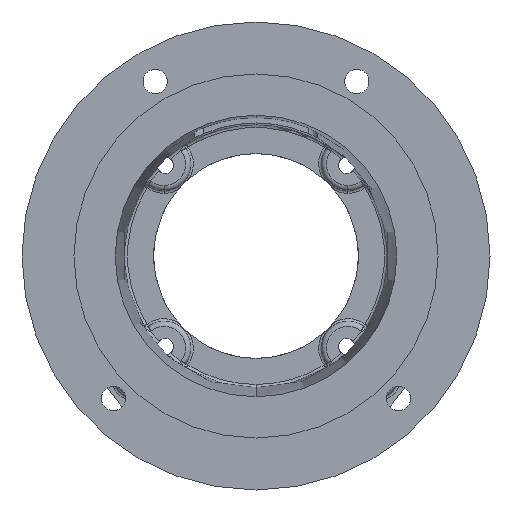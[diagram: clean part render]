
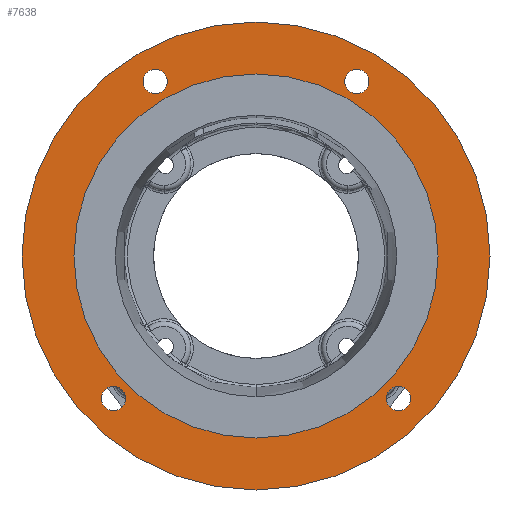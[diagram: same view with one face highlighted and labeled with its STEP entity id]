
A CAD part, front view. The second image highlights one B-rep face of the part: STEP entity #7638.
In plain terms, the highlighted planar face has unit normal (0, -1, 0).
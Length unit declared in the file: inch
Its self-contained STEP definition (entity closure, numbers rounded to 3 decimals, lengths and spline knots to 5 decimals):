
#32 = CARTESIAN_POINT ( 'NONE',  ( -2.74004, 0., -2.50566 ) ) ;
#112 = VERTEX_POINT ( 'NONE', #220 ) ;
#220 = CARTESIAN_POINT ( 'NONE',  ( 1.9375, 0., 3.12147 ) ) ;
#249 = CARTESIAN_POINT ( 'NONE',  ( 0., 0., 0. ) ) ;
#344 = VERTEX_POINT ( 'NONE', #32 ) ;
#654 = DIRECTION ( 'NONE',  ( 0., 0., -1. ) ) ;
#675 = ORIENTED_EDGE ( 'NONE', *, *, #11817, .F. ) ;
#682 = DIRECTION ( 'NONE',  ( 0., -1., 0. ) ) ;
#693 = CARTESIAN_POINT ( 'NONE',  ( 0., 0., 0. ) ) ;
#741 = VERTEX_POINT ( 'NONE', #9507 ) ;
#945 = AXIS2_PLACEMENT_3D ( 'NONE', #7045, #9892, #4384 ) ;
#1140 = AXIS2_PLACEMENT_3D ( 'NONE', #8509, #2980, #9436 ) ;
#1152 = DIRECTION ( 'NONE',  ( 0., 0., -1. ) ) ;
#1232 = CIRCLE ( 'NONE', #4534, 0.23438 ) ;
#1273 = CARTESIAN_POINT ( 'NONE',  ( -1.9375, 0., 3.59022 ) ) ;
#1294 = DIRECTION ( 'NONE',  ( 0., 0., -1. ) ) ;
#1299 = CARTESIAN_POINT ( 'NONE',  ( 0., 0., 3.501 ) ) ;
#1300 = AXIS2_PLACEMENT_3D ( 'NONE', #693, #682, #654 ) ;
#1312 = DIRECTION ( 'NONE',  ( 0., -1., 0. ) ) ;
#1326 = CARTESIAN_POINT ( 'NONE',  ( 0., 0., 0. ) ) ;
#1600 = PLANE ( 'NONE',  #945 ) ;
#1661 = ORIENTED_EDGE ( 'NONE', *, *, #9138, .F. ) ;
#1732 = FACE_BOUND ( 'NONE', #9176, .T. ) ;
#1889 = CIRCLE ( 'NONE', #3889, 0.23438 ) ;
#1903 = CARTESIAN_POINT ( 'NONE',  ( -1.9375, 0., 3.35585 ) ) ;
#1920 = DIRECTION ( 'NONE',  ( 0., -1., 0. ) ) ;
#2037 = FACE_BOUND ( 'NONE', #5058, .T. ) ;
#2384 = VERTEX_POINT ( 'NONE', #9963 ) ;
#2397 = CIRCLE ( 'NONE', #11029, 0.23438 ) ;
#2404 = EDGE_CURVE ( 'NONE', #344, #5753, #1232, .T. ) ;
#2507 = AXIS2_PLACEMENT_3D ( 'NONE', #8514, #2985, #9439 ) ;
#2767 = DIRECTION ( 'NONE',  ( 0., -1., 0. ) ) ;
#2817 = DIRECTION ( 'NONE',  ( 0., 0., -1. ) ) ;
#2923 = VERTEX_POINT ( 'NONE', #7184 ) ;
#2980 = DIRECTION ( 'NONE',  ( 0., -1., 0. ) ) ;
#2985 = DIRECTION ( 'NONE',  ( 0., -1., 0. ) ) ;
#3207 = ORIENTED_EDGE ( 'NONE', *, *, #3801, .F. ) ;
#3380 = EDGE_CURVE ( 'NONE', #10572, #2923, #11456, .T. ) ;
#3692 = CIRCLE ( 'NONE', #7313, 4.5 ) ;
#3723 = DIRECTION ( 'NONE',  ( 0., 0., -1. ) ) ;
#3724 = DIRECTION ( 'NONE',  ( 0., -1., 0. ) ) ;
#3750 = CARTESIAN_POINT ( 'NONE',  ( 2.74004, 0., -2.74004 ) ) ;
#3801 = EDGE_CURVE ( 'NONE', #741, #9880, #11584, .T. ) ;
#3889 = AXIS2_PLACEMENT_3D ( 'NONE', #1903, #8347, #2817 ) ;
#4155 = VERTEX_POINT ( 'NONE', #11150 ) ;
#4188 = FACE_BOUND ( 'NONE', #8714, .T. ) ;
#4320 = CIRCLE ( 'NONE', #2507, 0.23438 ) ;
#4381 = DIRECTION ( 'NONE',  ( 0., 0., -1. ) ) ;
#4384 = DIRECTION ( 'NONE',  ( 0., 0., 1. ) ) ;
#4389 = DIRECTION ( 'NONE',  ( 0., -1., 0. ) ) ;
#4399 = CARTESIAN_POINT ( 'NONE',  ( 1.9375, 0., 3.35585 ) ) ;
#4534 = AXIS2_PLACEMENT_3D ( 'NONE', #9828, #9816, #9794 ) ;
#4757 = AXIS2_PLACEMENT_3D ( 'NONE', #8290, #2767, #9230 ) ;
#4776 = CARTESIAN_POINT ( 'NONE',  ( -2.74004, 0., -2.97441 ) ) ;
#4821 = EDGE_CURVE ( 'NONE', #112, #7529, #9480, .T. ) ;
#4836 = CARTESIAN_POINT ( 'NONE',  ( 2.74004, 0., -2.50566 ) ) ;
#4875 = CIRCLE ( 'NONE', #7386, 3.501 ) ;
#5058 = EDGE_LOOP ( 'NONE', ( #675, #10545 ) ) ;
#5063 = EDGE_CURVE ( 'NONE', #7239, #4155, #7458, .T. ) ;
#5077 = VERTEX_POINT ( 'NONE', #1273 ) ;
#5116 = EDGE_LOOP ( 'NONE', ( #6490, #5792 ) ) ;
#5444 = ORIENTED_EDGE ( 'NONE', *, *, #8773, .F. ) ;
#5531 = AXIS2_PLACEMENT_3D ( 'NONE', #4399, #4389, #4381 ) ;
#5641 = EDGE_CURVE ( 'NONE', #7529, #112, #2397, .T. ) ;
#5753 = VERTEX_POINT ( 'NONE', #4776 ) ;
#5792 = ORIENTED_EDGE ( 'NONE', *, *, #5063, .T. ) ;
#5919 = DIRECTION ( 'NONE',  ( 0., 0., -1. ) ) ;
#5930 = DIRECTION ( 'NONE',  ( 0., -1., 0. ) ) ;
#5956 = CARTESIAN_POINT ( 'NONE',  ( 1.9375, 0., 3.35585 ) ) ;
#6089 = AXIS2_PLACEMENT_3D ( 'NONE', #3750, #3724, #3723 ) ;
#6490 = ORIENTED_EDGE ( 'NONE', *, *, #10534, .T. ) ;
#6600 = CIRCLE ( 'NONE', #4757, 0.23438 ) ;
#6626 = FACE_BOUND ( 'NONE', #6662, .T. ) ;
#6662 = EDGE_LOOP ( 'NONE', ( #8704, #1661 ) ) ;
#6682 = DIRECTION ( 'NONE',  ( 0., -1., 0. ) ) ;
#7045 = CARTESIAN_POINT ( 'NONE',  ( -4.5, 0., 0. ) ) ;
#7184 = CARTESIAN_POINT ( 'NONE',  ( 2.74004, 0., -2.97441 ) ) ;
#7239 = VERTEX_POINT ( 'NONE', #9945 ) ;
#7286 = EDGE_CURVE ( 'NONE', #2384, #5077, #1889, .T. ) ;
#7313 = AXIS2_PLACEMENT_3D ( 'NONE', #249, #6682, #1152 ) ;
#7386 = AXIS2_PLACEMENT_3D ( 'NONE', #7431, #1920, #8364 ) ;
#7431 = CARTESIAN_POINT ( 'NONE',  ( 0., 0., 0. ) ) ;
#7458 = CIRCLE ( 'NONE', #8420, 4.5 ) ;
#7529 = VERTEX_POINT ( 'NONE', #11579 ) ;
#7638 = ADVANCED_FACE ( 'NONE', ( #6626, #1732, #2037, #4188, #11237, #8821 ), #1600, .F. ) ;
#8038 = CIRCLE ( 'NONE', #1140, 0.23438 ) ;
#8290 = CARTESIAN_POINT ( 'NONE',  ( -1.9375, 0., 3.35585 ) ) ;
#8347 = DIRECTION ( 'NONE',  ( 0., -1., 0. ) ) ;
#8364 = DIRECTION ( 'NONE',  ( 0., 0., -1. ) ) ;
#8420 = AXIS2_PLACEMENT_3D ( 'NONE', #1326, #1312, #1294 ) ;
#8463 = ORIENTED_EDGE ( 'NONE', *, *, #5641, .F. ) ;
#8509 = CARTESIAN_POINT ( 'NONE',  ( 2.74004, 0., -2.74004 ) ) ;
#8514 = CARTESIAN_POINT ( 'NONE',  ( -2.74004, 0., -2.74004 ) ) ;
#8704 = ORIENTED_EDGE ( 'NONE', *, *, #7286, .F. ) ;
#8714 = EDGE_LOOP ( 'NONE', ( #5444, #10557 ) ) ;
#8773 = EDGE_CURVE ( 'NONE', #5753, #344, #4320, .T. ) ;
#8821 = FACE_OUTER_BOUND ( 'NONE', #5116, .T. ) ;
#9138 = EDGE_CURVE ( 'NONE', #5077, #2384, #6600, .T. ) ;
#9176 = EDGE_LOOP ( 'NONE', ( #10227, #8463 ) ) ;
#9230 = DIRECTION ( 'NONE',  ( 0., 0., -1. ) ) ;
#9436 = DIRECTION ( 'NONE',  ( 0., 0., -1. ) ) ;
#9439 = DIRECTION ( 'NONE',  ( 0., 0., -1. ) ) ;
#9480 = CIRCLE ( 'NONE', #5531, 0.23438 ) ;
#9507 = CARTESIAN_POINT ( 'NONE',  ( 0., 0., -3.501 ) ) ;
#9689 = EDGE_CURVE ( 'NONE', #9880, #741, #4875, .T. ) ;
#9794 = DIRECTION ( 'NONE',  ( 0., 0., -1. ) ) ;
#9816 = DIRECTION ( 'NONE',  ( 0., -1., 0. ) ) ;
#9828 = CARTESIAN_POINT ( 'NONE',  ( -2.74004, 0., -2.74004 ) ) ;
#9880 = VERTEX_POINT ( 'NONE', #1299 ) ;
#9892 = DIRECTION ( 'NONE',  ( 0., 1., 0. ) ) ;
#9945 = CARTESIAN_POINT ( 'NONE',  ( 0., 0., 4.5 ) ) ;
#9963 = CARTESIAN_POINT ( 'NONE',  ( -1.9375, 0., 3.12147 ) ) ;
#10227 = ORIENTED_EDGE ( 'NONE', *, *, #4821, .F. ) ;
#10440 = ORIENTED_EDGE ( 'NONE', *, *, #9689, .F. ) ;
#10534 = EDGE_CURVE ( 'NONE', #4155, #7239, #3692, .T. ) ;
#10545 = ORIENTED_EDGE ( 'NONE', *, *, #3380, .F. ) ;
#10557 = ORIENTED_EDGE ( 'NONE', *, *, #2404, .F. ) ;
#10572 = VERTEX_POINT ( 'NONE', #4836 ) ;
#10974 = EDGE_LOOP ( 'NONE', ( #3207, #10440 ) ) ;
#11029 = AXIS2_PLACEMENT_3D ( 'NONE', #5956, #5930, #5919 ) ;
#11150 = CARTESIAN_POINT ( 'NONE',  ( 0., 0., -4.5 ) ) ;
#11237 = FACE_BOUND ( 'NONE', #10974, .T. ) ;
#11456 = CIRCLE ( 'NONE', #6089, 0.23438 ) ;
#11579 = CARTESIAN_POINT ( 'NONE',  ( 1.9375, 0., 3.59022 ) ) ;
#11584 = CIRCLE ( 'NONE', #1300, 3.501 ) ;
#11817 = EDGE_CURVE ( 'NONE', #2923, #10572, #8038, .T. ) ;
